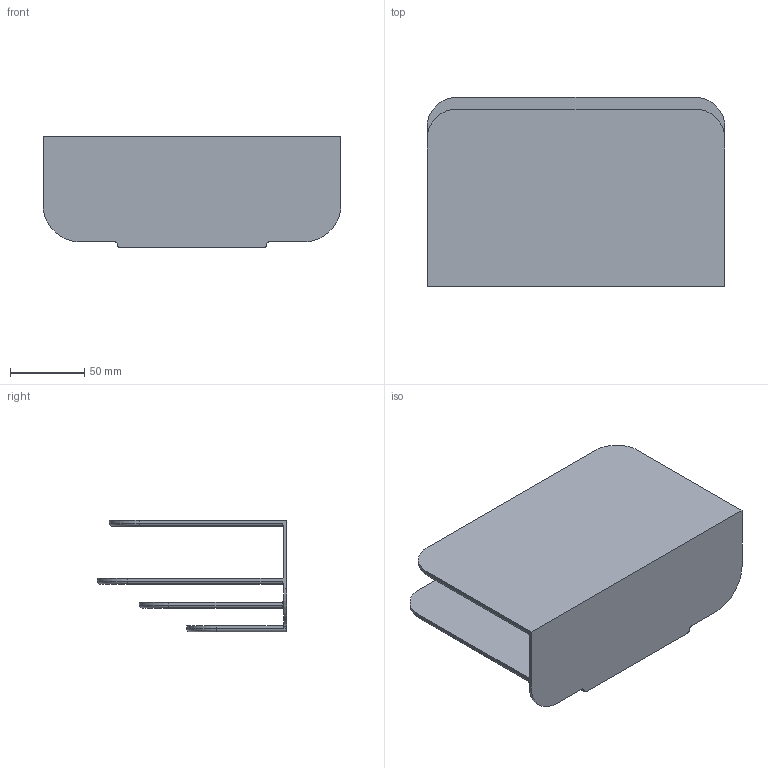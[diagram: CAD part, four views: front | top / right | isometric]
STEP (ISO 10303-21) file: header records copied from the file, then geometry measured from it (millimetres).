
FILE_DESCRIPTION(/* description */ ('Alibre Inc.'),/* implementation_level */ '2;1');
FILE_NAME(/* name */ 'export-B22CADCC-5ECE-4B95-B2C6-D290047CCA89',/* time_stamp */ '2025-02-19T07:39:35+01:00',/* author */ (''),/* organization */ (''),/* preprocessor_version */ 'ST-DEVELOPER v17',/* originating_system */ 'Alibre',/* authorisation */ '');
FILE_SCHEMA (('CONFIG_CONTROL_DESIGN'));
Length unit declared in the file: centimetre
Bounding box: 200 x 127 x 75 mm (x, y, z)
Volume: 298870.1 mm3; surface area: 166655.3 mm2
Topology: 1 solids, 1 shells, 69 faces, 170 edges, 104 vertices
Faces by surface type: cylinder 32, plane 23, torus 14
Entity records: 2184 total; most frequent: CARTESIAN_POINT 457, DIRECTION 341, ORIENTED_EDGE 340, EDGE_CURVE 170, AXIS2_PLACEMENT_3D 145, VERTEX_POINT 104, VECTOR 88, LINE 88
